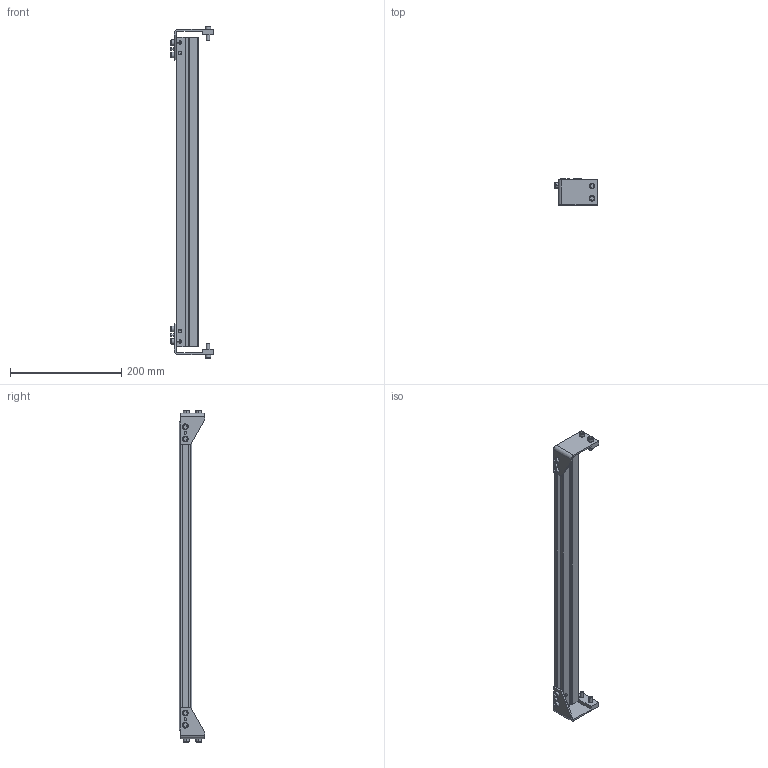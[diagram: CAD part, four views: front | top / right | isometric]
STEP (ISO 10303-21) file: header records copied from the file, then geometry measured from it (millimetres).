
FILE_DESCRIPTION((''),'2;1');
FILE_NAME('3076WWM_2_ASM','2023-03-15T',('jenni.wallner'),(''),'PRO/ENGINEER BY PARAMETRIC TECHNOLOGY CORPORATION, 2012420','PRO/ENGINEER BY PARAMETRIC TECHNOLOGY CORPORATION, 2012420','');
FILE_SCHEMA(('CONFIG_CONTROL_DESIGN'));
Length unit declared in the file: inch
Products named in the file (4): 677721_1; BRACKET_L; BRACKET_R; 3076WWM_2_ASM
Assembly tree (3 placements, depth 2):
  3076WWM_2_ASM
    677721_1
    BRACKET_L
    BRACKET_R
Bounding box: 76.2 x 46.13 x 595.62 mm (x, y, z)
Volume: 270802.3 mm3; surface area: 163699.4 mm2
Topology: 3 solids, 3 shells, 296 faces, 730 edges, 476 vertices
Faces by surface type: plane 188, cylinder 76, cone 32
Entity records: 8834 total; most frequent: DIRECTION 1520, CARTESIAN_POINT 1509, ORIENTED_EDGE 1460, EDGE_CURVE 730, VECTOR 546, LINE 546, AXIS2_PLACEMENT_3D 487, VERTEX_POINT 476
